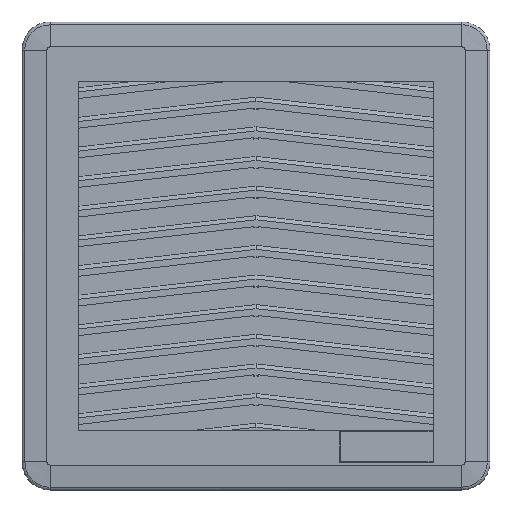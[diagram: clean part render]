
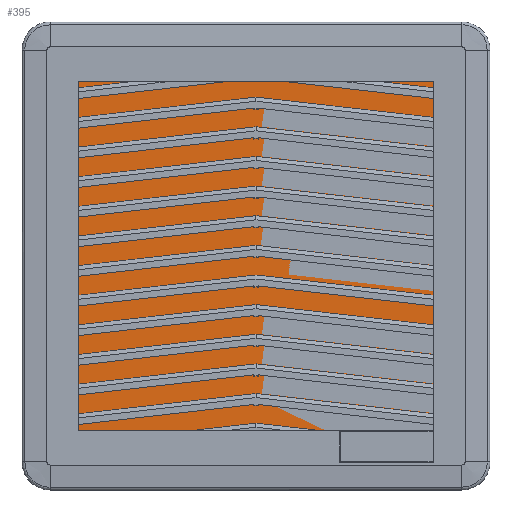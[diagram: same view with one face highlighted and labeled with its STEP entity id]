
A CAD part, top view. The second image highlights one B-rep face of the part: STEP entity #395.
In plain terms, the highlighted planar face has unit normal (0, 0, 1).
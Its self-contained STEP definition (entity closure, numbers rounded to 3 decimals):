
#15=(
BOUNDED_CURVE()
B_SPLINE_CURVE(3,(#7035,#7036,#7037,#7038),.UNSPECIFIED.,.F.,.F.)
B_SPLINE_CURVE_WITH_KNOTS((4,4),(-12.298,0.),.UNSPECIFIED.)
CURVE()
GEOMETRIC_REPRESENTATION_ITEM()
RATIONAL_B_SPLINE_CURVE((1.,0.805,0.805,1.))
REPRESENTATION_ITEM('')
);
#16=(
BOUNDED_CURVE()
B_SPLINE_CURVE(3,(#7041,#7042,#7043,#7044),.UNSPECIFIED.,.F.,.F.)
B_SPLINE_CURVE_WITH_KNOTS((4,4),(-12.298,0.),.UNSPECIFIED.)
CURVE()
GEOMETRIC_REPRESENTATION_ITEM()
RATIONAL_B_SPLINE_CURVE((1.,0.805,0.805,1.))
REPRESENTATION_ITEM('')
);
#17=(
BOUNDED_CURVE()
B_SPLINE_CURVE(3,(#7047,#7048,#7049,#7050),.UNSPECIFIED.,.F.,.F.)
B_SPLINE_CURVE_WITH_KNOTS((4,4),(-12.298,0.),.UNSPECIFIED.)
CURVE()
GEOMETRIC_REPRESENTATION_ITEM()
RATIONAL_B_SPLINE_CURVE((1.,0.805,0.805,1.))
REPRESENTATION_ITEM('')
);
#18=(
BOUNDED_CURVE()
B_SPLINE_CURVE(3,(#7053,#7054,#7055,#7056),.UNSPECIFIED.,.F.,.F.)
B_SPLINE_CURVE_WITH_KNOTS((4,4),(-12.298,0.),.UNSPECIFIED.)
CURVE()
GEOMETRIC_REPRESENTATION_ITEM()
RATIONAL_B_SPLINE_CURVE((1.,0.805,0.805,1.))
REPRESENTATION_ITEM('')
);
#395=ADVANCED_FACE('',(#687),#5019,.T.);
#687=FACE_OUTER_BOUND('',#979,.T.);
#979=EDGE_LOOP('',(#1291,#1292,#1293,#1294,#1295,#1296,#1297,#1298));
#1291=ORIENTED_EDGE('',*,*,#2918,.F.);
#1292=ORIENTED_EDGE('',*,*,#2919,.F.);
#1293=ORIENTED_EDGE('',*,*,#2920,.F.);
#1294=ORIENTED_EDGE('',*,*,#2921,.F.);
#1295=ORIENTED_EDGE('',*,*,#2922,.F.);
#1296=ORIENTED_EDGE('',*,*,#2923,.F.);
#1297=ORIENTED_EDGE('',*,*,#2924,.F.);
#1298=ORIENTED_EDGE('',*,*,#2917,.F.);
#2917=EDGE_CURVE('',#4481,#4482,#3738,.T.);
#2918=EDGE_CURVE('',#4483,#4481,#15,.T.);
#2919=EDGE_CURVE('',#4484,#4483,#3739,.T.);
#2920=EDGE_CURVE('',#4485,#4484,#16,.T.);
#2921=EDGE_CURVE('',#4486,#4485,#3740,.T.);
#2922=EDGE_CURVE('',#4487,#4486,#17,.T.);
#2923=EDGE_CURVE('',#4488,#4487,#3741,.T.);
#2924=EDGE_CURVE('',#4482,#4488,#18,.T.);
#3738=B_SPLINE_CURVE_WITH_KNOTS('',1,(#7033,#7034),.UNSPECIFIED.,.F.,.F.,
(2,2),(-133.606,0.),.UNSPECIFIED.);
#3739=B_SPLINE_CURVE_WITH_KNOTS('',1,(#7039,#7040),.UNSPECIFIED.,.F.,.F.,
(2,2),(-131.506,0.),.UNSPECIFIED.);
#3740=B_SPLINE_CURVE_WITH_KNOTS('',1,(#7045,#7046),.UNSPECIFIED.,.F.,.F.,
(2,2),(-133.606,0.),.UNSPECIFIED.);
#3741=B_SPLINE_CURVE_WITH_KNOTS('',1,(#7051,#7052),.UNSPECIFIED.,.F.,.F.,
(2,2),(-131.506,0.),.UNSPECIFIED.);
#4481=VERTEX_POINT('',#6797);
#4482=VERTEX_POINT('',#6798);
#4483=VERTEX_POINT('',#6799);
#4484=VERTEX_POINT('',#6800);
#4485=VERTEX_POINT('',#6801);
#4486=VERTEX_POINT('',#6802);
#4487=VERTEX_POINT('',#6803);
#4488=VERTEX_POINT('',#6804);
#5019=PLANE('',#5383);
#5383=AXIS2_PLACEMENT_3D('',#5987,#5668,$);
#5668=DIRECTION('',(0.,0.,1.));
#5987=CARTESIAN_POINT('',(88.711,-87.301,27.2));
#6797=CARTESIAN_POINT('',(-66.653,72.751,27.2));
#6798=CARTESIAN_POINT('',(66.953,72.751,27.2));
#6799=CARTESIAN_POINT('',(-73.651,65.753,27.2));
#6800=CARTESIAN_POINT('',(-73.651,-65.753,27.2));
#6801=CARTESIAN_POINT('',(-66.653,-72.751,27.2));
#6802=CARTESIAN_POINT('',(66.953,-72.751,27.2));
#6803=CARTESIAN_POINT('',(73.951,-65.753,27.2));
#6804=CARTESIAN_POINT('',(73.951,65.753,27.2));
#7033=CARTESIAN_POINT('',(-66.653,72.751,27.2));
#7034=CARTESIAN_POINT('',(66.953,72.751,27.2));
#7035=CARTESIAN_POINT('',(-73.651,65.753,27.2));
#7036=CARTESIAN_POINT('',(-73.651,69.853,27.2));
#7037=CARTESIAN_POINT('',(-70.753,72.751,27.2));
#7038=CARTESIAN_POINT('',(-66.653,72.751,27.2));
#7039=CARTESIAN_POINT('',(-73.651,-65.753,27.2));
#7040=CARTESIAN_POINT('',(-73.651,65.753,27.2));
#7041=CARTESIAN_POINT('',(-66.653,-72.751,27.2));
#7042=CARTESIAN_POINT('',(-70.753,-72.751,27.2));
#7043=CARTESIAN_POINT('',(-73.651,-69.853,27.2));
#7044=CARTESIAN_POINT('',(-73.651,-65.753,27.2));
#7045=CARTESIAN_POINT('',(66.953,-72.751,27.2));
#7046=CARTESIAN_POINT('',(-66.653,-72.751,27.2));
#7047=CARTESIAN_POINT('',(73.951,-65.753,27.2));
#7048=CARTESIAN_POINT('',(73.951,-69.853,27.2));
#7049=CARTESIAN_POINT('',(71.053,-72.751,27.2));
#7050=CARTESIAN_POINT('',(66.953,-72.751,27.2));
#7051=CARTESIAN_POINT('',(73.951,65.753,27.2));
#7052=CARTESIAN_POINT('',(73.951,-65.753,27.2));
#7053=CARTESIAN_POINT('',(66.953,72.751,27.2));
#7054=CARTESIAN_POINT('',(71.053,72.751,27.2));
#7055=CARTESIAN_POINT('',(73.951,69.853,27.2));
#7056=CARTESIAN_POINT('',(73.951,65.753,27.2));
